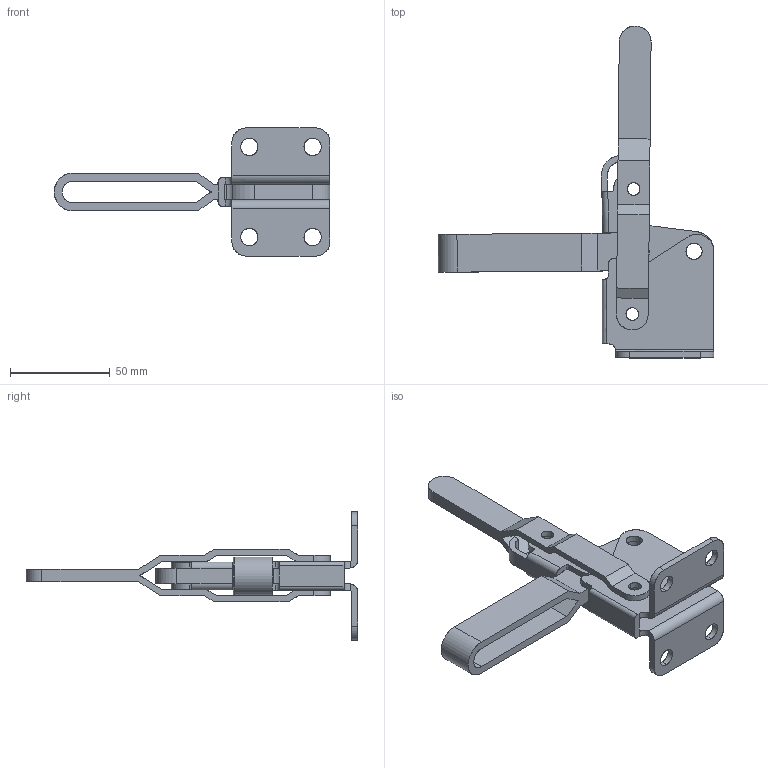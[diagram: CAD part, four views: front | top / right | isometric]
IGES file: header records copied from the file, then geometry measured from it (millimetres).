
Start section: SolidWorks IGES file using analytic representation for surfaces
Global section: file name: D:\GH Files\GH-SW-FILES\GH1\GH-12270\12265\GH-12265.IGS; native system: SolidWorks 2006 by SolidWorks Corporation; preprocessor: SolidWorks 2006 by SolidWorks Corporation; author: Administrator; date: 060825.123759; units: millimetre
Bounding box: 138.57 x 166.67 x 64.3 mm (x, y, z)
Surface area: 44299.9 mm2 (no closed solid volume)
Topology: 0 solids, 0 shells, 170 faces, 2898 edges, 2898 vertices
Faces by surface type: revolution 88, bspline 82
